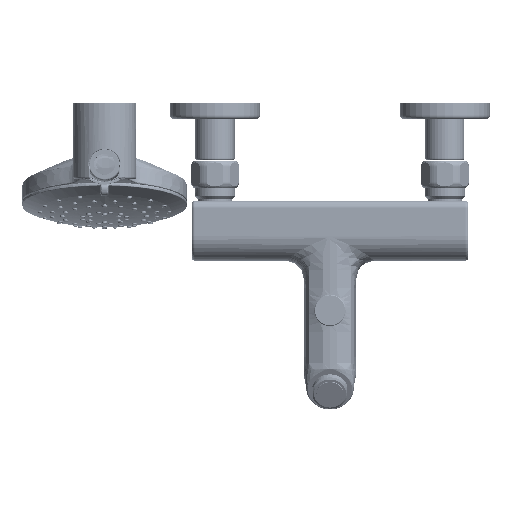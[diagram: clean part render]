
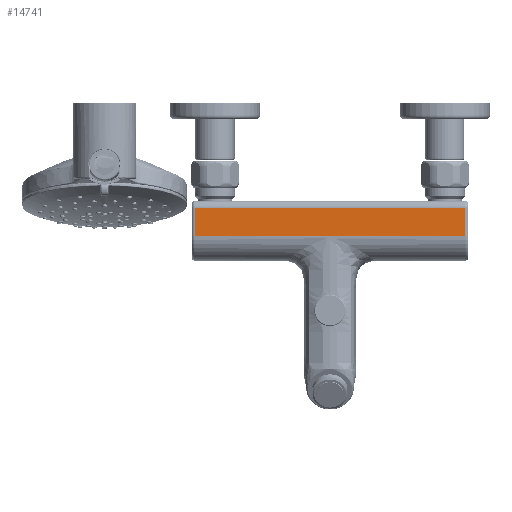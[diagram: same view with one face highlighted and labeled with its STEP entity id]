
A CAD part, front view. The second image highlights one B-rep face of the part: STEP entity #14741.
In plain terms, the highlighted planar face has unit normal (0, -1, 0).
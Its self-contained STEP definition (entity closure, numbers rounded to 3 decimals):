
#2767=DIRECTION('',(0.,0.,-1.));
#2768=VECTOR('',#2767,18.2);
#2769=CARTESIAN_POINT('',(-90.,-16.3,18.));
#2770=LINE('',#2769,#2768);
#2771=DIRECTION('',(1.,0.,0.));
#2772=VECTOR('',#2771,180.);
#2773=CARTESIAN_POINT('',(-90.,-16.3,18.));
#2774=LINE('',#2773,#2772);
#2775=DIRECTION('',(0.,0.,1.));
#2776=VECTOR('',#2775,18.2);
#2777=CARTESIAN_POINT('',(90.,-16.3,-0.2));
#2778=LINE('',#2777,#2776);
#2779=DIRECTION('',(-1.,0.,0.));
#2780=VECTOR('',#2779,180.);
#2781=CARTESIAN_POINT('',(90.,-16.3,-0.2));
#2782=LINE('',#2781,#2780);
#4907=CARTESIAN_POINT('',(-90.,-16.3,18.));
#4908=VERTEX_POINT('',#4907);
#4911=CARTESIAN_POINT('',(-90.,-16.3,-0.2));
#4912=VERTEX_POINT('',#4911);
#4920=CARTESIAN_POINT('',(90.,-16.3,-0.2));
#4922=VERTEX_POINT('',#4920);
#4927=CARTESIAN_POINT('',(90.,-16.3,18.));
#4928=VERTEX_POINT('',#4927);
#14729=CARTESIAN_POINT('',(92.,-16.3,-0.2));
#14730=DIRECTION('',(0.,-1.,0.));
#14731=DIRECTION('',(0.,0.,1.));
#14732=AXIS2_PLACEMENT_3D('',#14729,#14730,#14731);
#14733=PLANE('',#14732);
#14735=ORIENTED_EDGE('',*,*,#14734,.F.);
#14736=ORIENTED_EDGE('',*,*,#14626,.T.);
#14737=ORIENTED_EDGE('',*,*,#14720,.F.);
#14738=ORIENTED_EDGE('',*,*,#14469,.T.);
#14739=EDGE_LOOP('',(#14735,#14736,#14737,#14738));
#14740=FACE_OUTER_BOUND('',#14739,.F.);
#14741=ADVANCED_FACE('',(#14740),#14733,.T.);
#14469=EDGE_CURVE('',#4922,#4912,#2782,.T.);
#14626=EDGE_CURVE('',#4908,#4928,#2774,.T.);
#14720=EDGE_CURVE('',#4922,#4928,#2778,.T.);
#14734=EDGE_CURVE('',#4908,#4912,#2770,.T.);
